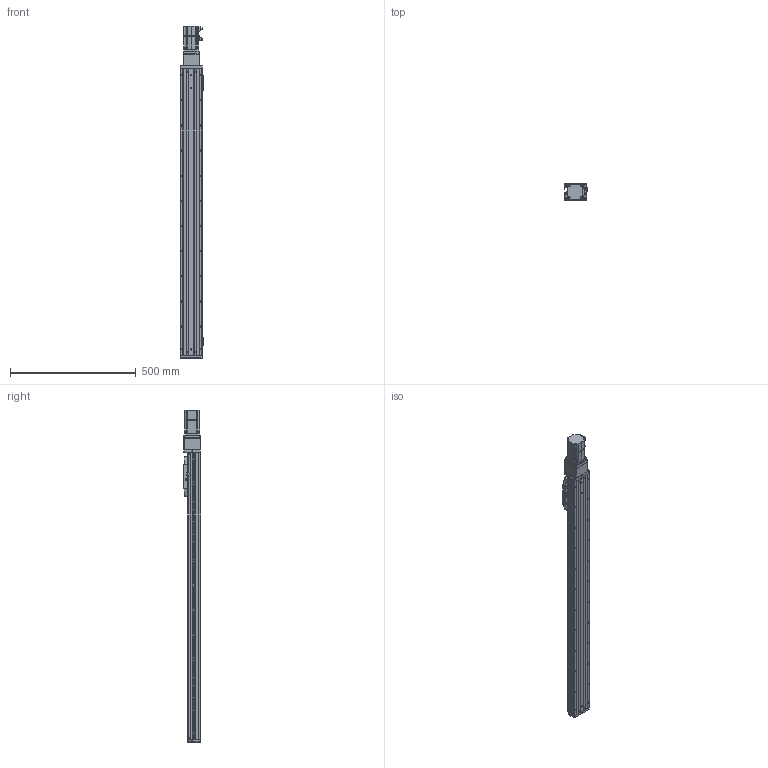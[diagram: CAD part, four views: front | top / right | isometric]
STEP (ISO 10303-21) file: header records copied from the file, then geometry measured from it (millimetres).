
FILE_DESCRIPTION (( 'STEP AP203' ), '1' );
FILE_NAME ('CTHA86-950-BC-M20-C4L.step', '2022-04-26T00:48:48', ( '微软用户' ), ( '微软中国' ), 'SwSTEP 2.0', 'SolidWorks 2020', '' );
FILE_SCHEMA (( 'CONFIG_CONTROL_DESIGN' ));
Length unit declared in the file: millimetre
Products named in the file (22): CTHA60-021; CTHA86-013; CTHA86-030; KTHA86-001_1140; GBT77-2000 M3×3; CTHA86-027; CTHA86-950-BC-M20-C4L; KTHA86-004; GBT 70.1-M3×20; CTHA86-006-1_CTHA86-006-2; KTHA86-005; GBT70.1 M5℅16; _X2_4E0983F1_X0_200W_1; GB¨uT 70.2-M3¡Á5_M3¡Á6; GBT 70.1-M3×16; GBT 70.3-M3℅6; EE_SX911P_R; GBT 70.1-M3℅6; CTHA86-002; CTHA60-017; CTHA60-016; CTHA86-031
Assembly tree (65 placements, depth 2):
  CTHA86-950-BC-M20-C4L
    KTHA86-001_1140
    KTHA86-004
    KTHA86-005
    GB¨uT 70.2-M3¡Á5_M3¡Á6  x10
    EE_SX911P_R  x3
    CTHA60-017  x3
    CTHA60-021  x2
    GBT77-2000 M3×3  x6
    GBT 70.1-M3×20
    GBT70.1 M5℅16  x14
    GBT 70.1-M3×16
    GBT 70.1-M3℅6  x6
    CTHA60-016  x2
    CTHA86-013
    CTHA86-027
    CTHA86-006-1_CTHA86-006-2
    _X2_4E0983F1_X0_200W_1
    GBT 70.3-M3℅6  x6
    CTHA86-002
    CTHA86-031
    CTHA86-030  x2
Bounding box: 93.82 x 68 x 1320.5 mm (x, y, z)
Volume: 4329857.4 mm3; surface area: 750964.4 mm2
Topology: 67 solids, 67 shells, 2794 faces, 6695 edges, 4120 vertices
Faces by surface type: plane 1464, cylinder 721, cone 396, torus 120, bspline 69, sphere 24
Entity records: 50213 total; most frequent: CARTESIAN_POINT 9296, DIRECTION 7928, ORIENTED_EDGE 7646, EDGE_CURVE 3823, AXIS2_PLACEMENT_3D 2688, LINE 2552, VECTOR 2552, VERTEX_POINT 2398
